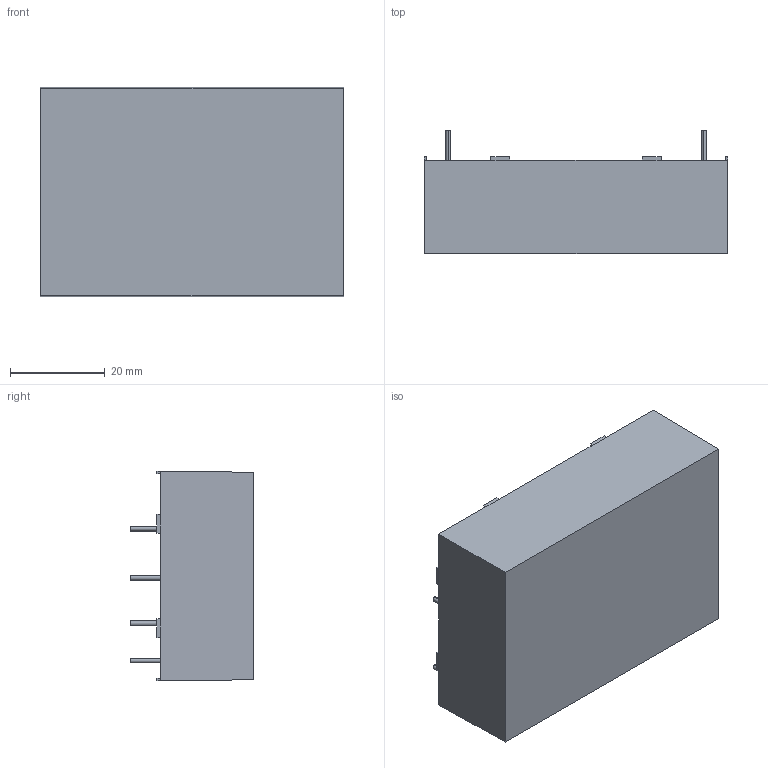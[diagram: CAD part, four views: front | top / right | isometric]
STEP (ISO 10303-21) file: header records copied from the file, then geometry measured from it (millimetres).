
FILE_DESCRIPTION (( 'STEP AP203' ), '1' );
FILE_NAME ('CFM21-E SPEC²Õ¦X¥ó.STEP', '2017-12-05T05:46:25', ( 'cincon' ), ( '' ), 'SwSTEP 2.0', 'SolidWorks 2017', '' );
FILE_SCHEMA (( 'CONFIG_CONTROL_DESIGN' ));
Length unit declared in the file: millimetre
Products named in the file (3): CFM21 series CASE65x45-980306; CFM21-E  BASE (FR4)示意圖-1051130; CFM21-E SPEC組合件
Assembly tree (2 placements, depth 2):
  CFM21-E SPEC組合件
    CFM21 series CASE65x45-980306
    CFM21-E  BASE (FR4)示意圖-1051130
Bounding box: 64.2 x 26 x 44.2 mm (x, y, z)
Volume: 11949.2 mm3; surface area: 24633.8 mm2
Topology: 7 solids, 7 shells, 103 faces, 248 edges, 160 vertices
Faces by surface type: plane 79, cylinder 24
Entity records: 3289 total; most frequent: CARTESIAN_POINT 516, DIRECTION 512, ORIENTED_EDGE 496, EDGE_CURVE 248, VECTOR 200, LINE 200, VERTEX_POINT 160, AXIS2_PLACEMENT_3D 156
